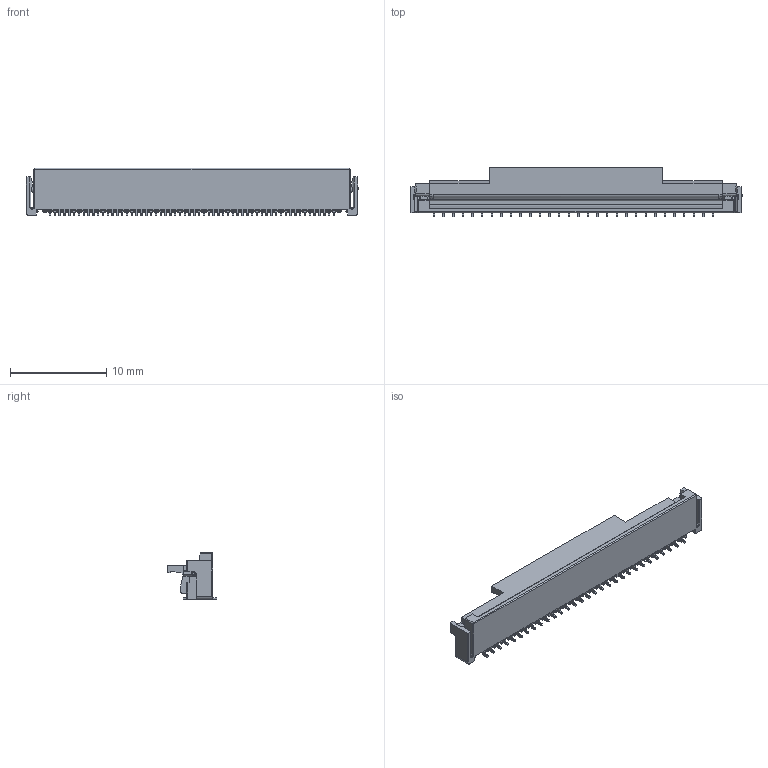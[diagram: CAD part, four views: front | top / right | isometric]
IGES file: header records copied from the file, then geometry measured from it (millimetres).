
Start section: SolidWorks IGES file using analytic representation for surfaces
Global section: file name: Q:\Kamikawa_Hisako\171006\6251\00_6251_0xx_010_846_+\00_6251_060_010_846+.IGS; native system: SolidWorks 2014; preprocessor: SolidWorks 2014; author: 151066016; date: 171017.142856; units: millimetre
Bounding box: 34.5 x 5.15 x 4.95 mm (x, y, z)
Surface area: 925.2 mm2 (no closed solid volume)
Topology: 0 solids, 0 shells, 1294 faces, 8667 edges, 8666 vertices
Faces by surface type: bspline 1019, revolution 275
